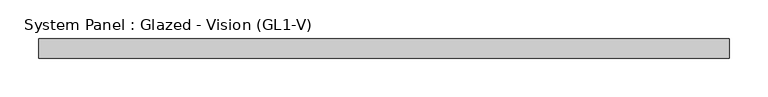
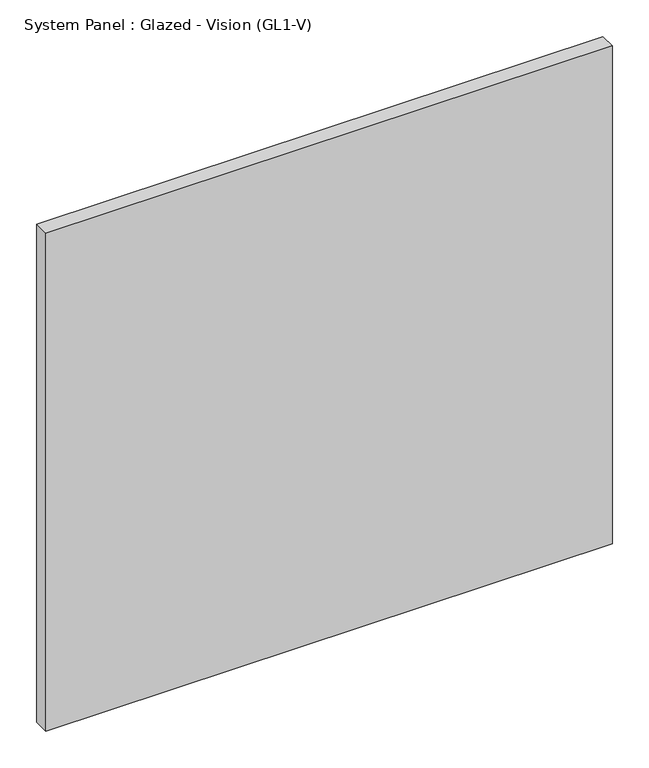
"""IFC4 building model written with IfcOpenShell, lengths in millimetres: plate geometry, System Panel : Glazed - Vision (GL1-V)."""

from ifc_helpers import new_model, si_unit, origin, origin_with_axes, place, context, project, spatial, polyline, outline, extrude, source, transform, mapped, element, save


def system_panel_glazed_vision_gl1_v_c30b828b(model_context):
    return source(origin(), model_context, "Body", "SweptSolid", [
        extrude(outline(polyline([(447.675, 0.0), (-447.675, 0.0), (-447.675, 25.4), (447.675, 25.4), (447.675, 0.0)])), origin_with_axes(), (0.0, 0.0, 1.0), 831.85),
    ])


if __name__ == "__main__":
    model = new_model("IFC4")
    model_context = context("Model", 3, world=origin())
    ifc_project = project(units=[si_unit("LENGTHUNIT", "METRE", prefix="MILLI")], contexts=[model_context])
    site = spatial("IfcSite", under=ifc_project)
    building = spatial("IfcBuilding", under=site)
    placement = place(None, origin())
    system_panel_glazed_vision_gl1_v_shape = system_panel_glazed_vision_gl1_v_c30b828b(model_context)
    element("IfcPlate", 1, ObjectType="System Panel : Glazed - Vision (GL1-V)", at=placement, inside=building, context=model_context, shape_type="MappedRepresentation", body=[
        mapped(system_panel_glazed_vision_gl1_v_shape, transform((0.0, 0.0, 0.0), x_axis=(1.0, 0.0, 0.0), y_axis=(0.0, 1.0, 0.0), z_axis=(0.0, 0.0, 1.0))),
    ])
    save(model, "model.ifc")
